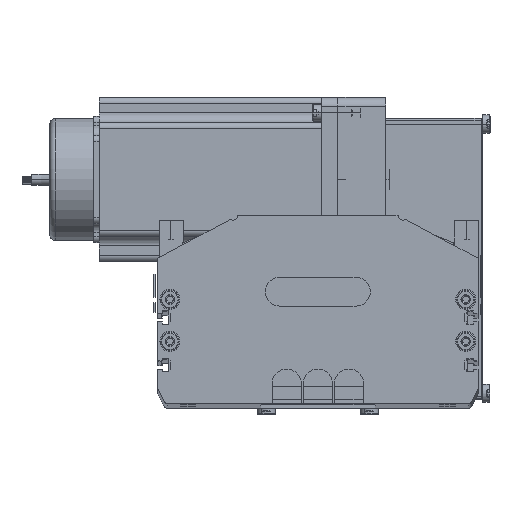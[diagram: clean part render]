
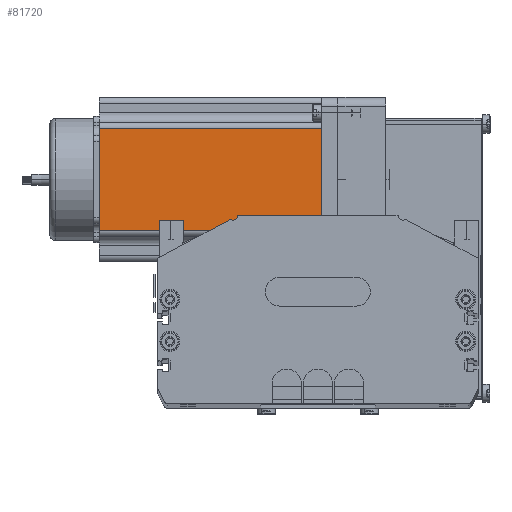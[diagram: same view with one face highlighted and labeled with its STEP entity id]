
A CAD part, top view. The second image highlights one B-rep face of the part: STEP entity #81720.
In plain terms, the highlighted planar face has unit normal (0, 0, 1) as drawn and (0, -1, 0) by its records, which use the part's own axes.
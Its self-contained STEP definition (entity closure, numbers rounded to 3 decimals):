
#55776 = DIRECTION ( 'NONE',  ( 1., 0., 0. ) ) ;
#55777 = VECTOR ( 'NONE', #55776, 1000. ) ;
#55793 = CARTESIAN_POINT ( 'NONE',  ( 0., 0., 0. ) ) ;
#55794 = LINE ( 'NONE', #55793, #55777 ) ;
#55825 = DIRECTION ( 'NONE',  ( 0., 1., 0. ) ) ;
#55859 = CARTESIAN_POINT ( 'NONE',  ( 16.16, 0., 0. ) ) ;
#55903 = CARTESIAN_POINT ( 'NONE',  ( 69.74, 0., 116.5 ) ) ;
#55904 = DIRECTION ( 'NONE',  ( 0., 0., 1. ) ) ;
#55907 = PLANE ( 'NONE',  #55913 ) ;
#55908 = FACE_OUTER_BOUND ( 'NONE', #81528, .T. ) ;
#55913 = AXIS2_PLACEMENT_3D ( 'NONE', #55917, #55825, #55904 ) ;
#55917 = CARTESIAN_POINT ( 'NONE',  ( 0., 0., 116.5 ) ) ;
#55923 = CARTESIAN_POINT ( 'NONE',  ( 16.16, 0., 116.5 ) ) ;
#55924 = LINE ( 'NONE', #55923, #55995 ) ;
#55929 = CARTESIAN_POINT ( 'NONE',  ( 16.16, 0., 116.5 ) ) ;
#55936 = LINE ( 'NONE', #55950, #55949 ) ;
#55940 = DIRECTION ( 'NONE',  ( 0., 0., 1. ) ) ;
#55943 = VECTOR ( 'NONE', #55940, 1000. ) ;
#55944 = CARTESIAN_POINT ( 'NONE',  ( 69.74, 0., 116.5 ) ) ;
#55945 = LINE ( 'NONE', #55944, #55943 ) ;
#55948 = DIRECTION ( 'NONE',  ( 1., 0., 0. ) ) ;
#55949 = VECTOR ( 'NONE', #55948, 1000. ) ;
#55950 = CARTESIAN_POINT ( 'NONE',  ( 0., 0., 116.5 ) ) ;
#55961 = CARTESIAN_POINT ( 'NONE',  ( 69.74, 0., 0. ) ) ;
#55994 = DIRECTION ( 'NONE',  ( 0., 0., -1. ) ) ;
#55995 = VECTOR ( 'NONE', #55994, 1000. ) ;
#81339 = ORIENTED_EDGE ( 'NONE', *, *, #81466, .T. ) ;
#81466 = EDGE_CURVE ( 'NONE', #81533, #81804, #55794, .T. ) ;
#81528 = EDGE_LOOP ( 'NONE', ( #81339, #81746, #81813, #81862 ) ) ;
#81533 = VERTEX_POINT ( 'NONE', #55859 ) ;
#81720 = ADVANCED_FACE ( 'NONE', ( #55908 ), #55907, .F. ) ;
#81744 = VERTEX_POINT ( 'NONE', #55903 ) ;
#81746 = ORIENTED_EDGE ( 'NONE', *, *, #81811, .T. ) ;
#81804 = VERTEX_POINT ( 'NONE', #55961 ) ;
#81811 = EDGE_CURVE ( 'NONE', #81804, #81744, #55945, .T. ) ;
#81813 = ORIENTED_EDGE ( 'NONE', *, *, #81853, .F. ) ;
#81853 = EDGE_CURVE ( 'NONE', #81854, #81744, #55936, .T. ) ;
#81854 = VERTEX_POINT ( 'NONE', #55929 ) ;
#81861 = EDGE_CURVE ( 'NONE', #81854, #81533, #55924, .T. ) ;
#81862 = ORIENTED_EDGE ( 'NONE', *, *, #81861, .T. ) ;
